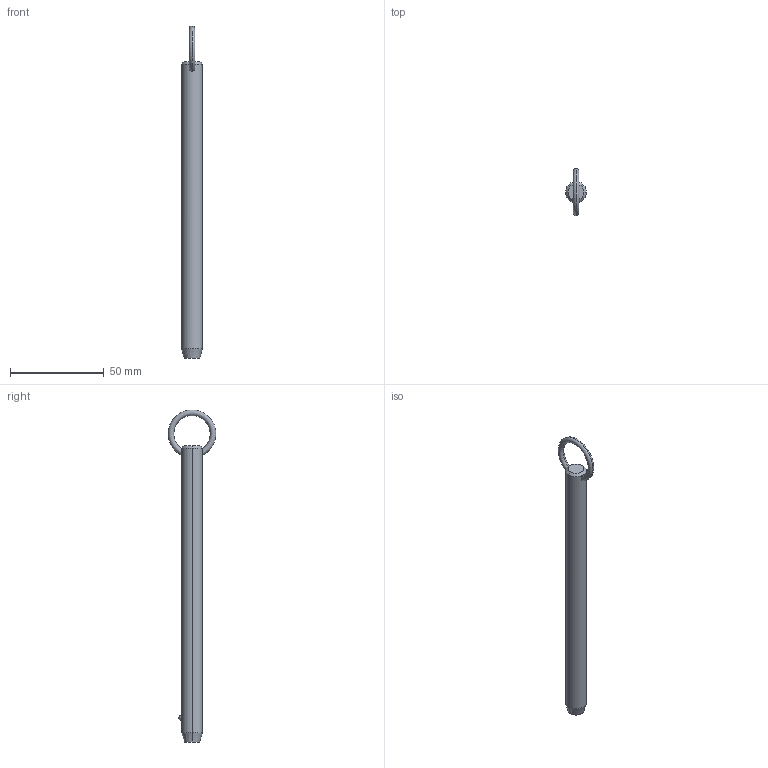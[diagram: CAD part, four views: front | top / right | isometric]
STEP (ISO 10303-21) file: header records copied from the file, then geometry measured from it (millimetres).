
FILE_DESCRIPTION (( 'STEP AP203' ), '1' );
FILE_NAME ('P1250.050-540.step', '2019-07-29T20:39:30', ( '' ), ( '' ), 'SwSTEP 2.0', 'SolidWorks 2017', '' );
FILE_SCHEMA (( 'CONFIG_CONTROL_DESIGN' ));
Length unit declared in the file: millimetre
Products named in the file (1): P1250.050-540
Bounding box: 11.1 x 25.32 x 176.75 mm (x, y, z)
Volume: 15552.8 mm3; surface area: 6155.4 mm2
Topology: 1 solids, 1 shells, 12 faces, 28 edges, 17 vertices
Faces by surface type: cone 4, torus 2, sphere 2, cylinder 2, plane 2
Entity records: 523 total; most frequent: CARTESIAN_POINT 190, DIRECTION 56, ORIENTED_EDGE 48, AXIS2_PLACEMENT_3D 25, EDGE_CURVE 24, EDGE_LOOP 15, VERTEX_POINT 15, ADVANCED_FACE 12
